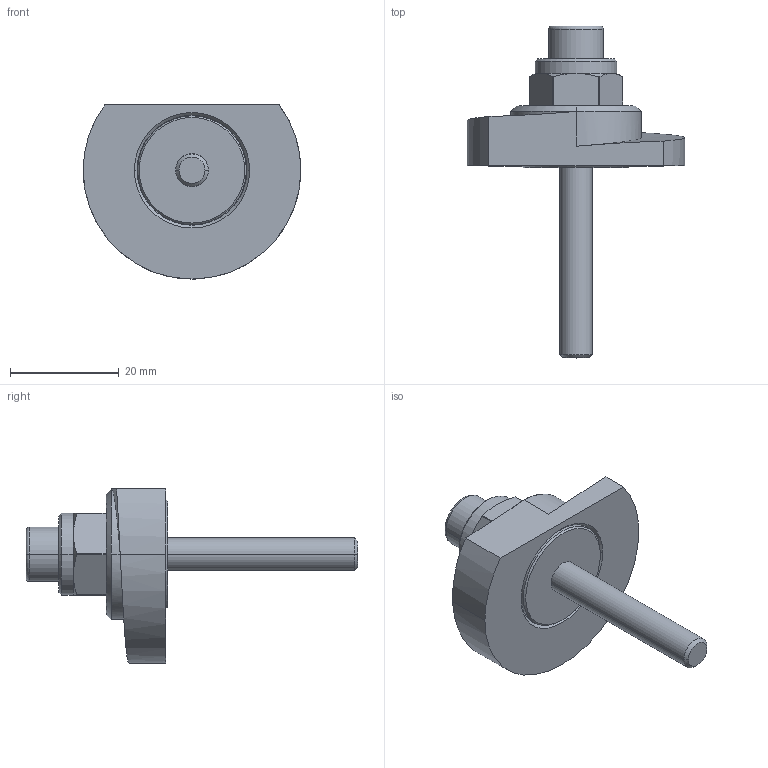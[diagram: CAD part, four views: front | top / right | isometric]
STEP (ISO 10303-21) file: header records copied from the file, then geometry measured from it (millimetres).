
FILE_DESCRIPTION (( 'STEP AP214' ), '1' );
FILE_NAME ('918.1-40-SKS-R-35.step', '2024-05-15T13:01:14', ( '' ), ( '' ), 'SwSTEP 2.0', 'SolidWorks 2022', '' );
FILE_SCHEMA (( 'AUTOMOTIVE_DESIGN' ));
Length unit declared in the file: millimetre
Products named in the file (1): 918.1-40-SKS-R-35
Bounding box: 40 x 61 x 32 mm (x, y, z)
Volume: 11939.6 mm3; surface area: 6868.2 mm2
Topology: 1 solids, 2 shells, 82 faces, 185 edges, 116 vertices
Faces by surface type: cylinder 30, plane 26, cone 22, torus 2, bspline 2
Entity records: 2641 total; most frequent: CARTESIAN_POINT 753, DIRECTION 407, ORIENTED_EDGE 370, EDGE_CURVE 185, AXIS2_PLACEMENT_3D 163, VERTEX_POINT 116, EDGE_LOOP 93, CIRCLE 82
